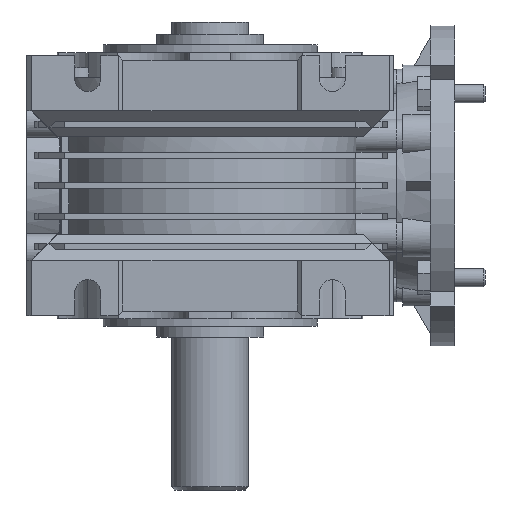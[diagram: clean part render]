
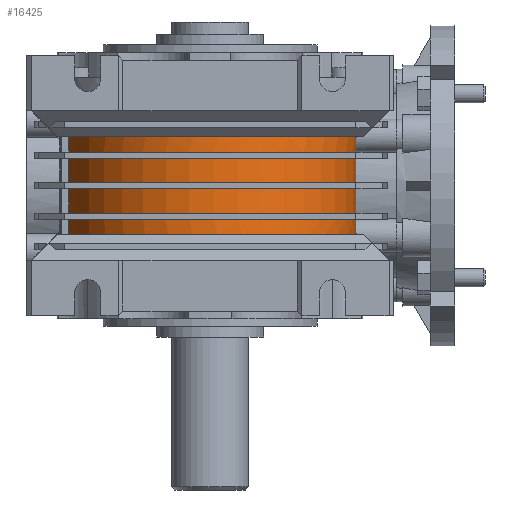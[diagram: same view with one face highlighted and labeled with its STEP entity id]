
A CAD part, front view. The second image highlights one B-rep face of the part: STEP entity #16425.
In plain terms, the highlighted cylindrical face has radius 47.7 mm (diameter 95.4 mm), a partial arc.
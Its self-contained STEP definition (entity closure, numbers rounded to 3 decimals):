
#814=B_SPLINE_CURVE_WITH_KNOTS('',3,(#24240,#24241,#24242,#24243,#24244,
#24245,#24246,#24247,#24248,#24249,#24250),.UNSPECIFIED.,.F.,.F.,(4,1,1,
1,1,1,1,1,4),(0.006,0.01,0.015,
0.019,0.023,0.027,0.032,
0.036,0.04),.UNSPECIFIED.);
#1113=LINE('',#24422,#2642);
#1141=LINE('',#24485,#2670);
#1142=LINE('',#24489,#2671);
#1143=LINE('',#24494,#2672);
#1144=LINE('',#24498,#2673);
#1145=LINE('',#24502,#2674);
#1146=LINE('',#24506,#2675);
#2642=VECTOR('',#19348,1000.);
#2670=VECTOR('',#19386,1000.);
#2671=VECTOR('',#19389,1000.);
#2672=VECTOR('',#19394,1000.);
#2673=VECTOR('',#19397,1000.);
#2674=VECTOR('',#19400,1000.);
#2675=VECTOR('',#19403,1000.);
#4303=ORIENTED_EDGE('',*,*,#9226,.F.);
#4304=ORIENTED_EDGE('',*,*,#9197,.T.);
#4305=ORIENTED_EDGE('',*,*,#9227,.T.);
#4306=ORIENTED_EDGE('',*,*,#9228,.F.);
#4307=ORIENTED_EDGE('',*,*,#9229,.F.);
#4308=ORIENTED_EDGE('',*,*,#9230,.T.);
#4309=ORIENTED_EDGE('',*,*,#9231,.F.);
#4310=ORIENTED_EDGE('',*,*,#9143,.F.);
#4311=ORIENTED_EDGE('',*,*,#9232,.F.);
#4312=ORIENTED_EDGE('',*,*,#9233,.T.);
#4313=ORIENTED_EDGE('',*,*,#9234,.T.);
#4314=ORIENTED_EDGE('',*,*,#9235,.T.);
#4315=ORIENTED_EDGE('',*,*,#9236,.F.);
#4316=ORIENTED_EDGE('',*,*,#9237,.T.);
#4317=ORIENTED_EDGE('',*,*,#9238,.T.);
#4318=ORIENTED_EDGE('',*,*,#9239,.F.);
#9143=EDGE_CURVE('',#11599,#11600,#814,.T.);
#9197=EDGE_CURVE('',#11653,#11654,#1113,.T.);
#9226=EDGE_CURVE('',#11653,#11681,#13260,.T.);
#9227=EDGE_CURVE('',#11654,#11682,#13261,.T.);
#9228=EDGE_CURVE('',#11683,#11682,#1141,.F.);
#9229=EDGE_CURVE('',#11684,#11683,#13262,.T.);
#9230=EDGE_CURVE('',#11684,#11685,#1142,.T.);
#9231=EDGE_CURVE('',#11600,#11685,#13263,.T.);
#9232=EDGE_CURVE('',#11686,#11599,#13264,.T.);
#9233=EDGE_CURVE('',#11686,#11687,#1143,.T.);
#9234=EDGE_CURVE('',#11687,#11688,#13265,.T.);
#9235=EDGE_CURVE('',#11688,#11689,#1144,.T.);
#9236=EDGE_CURVE('',#11690,#11689,#13266,.T.);
#9237=EDGE_CURVE('',#11690,#11691,#1145,.T.);
#9238=EDGE_CURVE('',#11691,#11692,#13267,.T.);
#9239=EDGE_CURVE('',#11681,#11692,#1146,.F.);
#11599=VERTEX_POINT('',#24239);
#11600=VERTEX_POINT('',#24251);
#11653=VERTEX_POINT('',#24423);
#11654=VERTEX_POINT('',#24424);
#11681=VERTEX_POINT('',#24482);
#11682=VERTEX_POINT('',#24484);
#11683=VERTEX_POINT('',#24486);
#11684=VERTEX_POINT('',#24488);
#11685=VERTEX_POINT('',#24490);
#11686=VERTEX_POINT('',#24493);
#11687=VERTEX_POINT('',#24495);
#11688=VERTEX_POINT('',#24497);
#11689=VERTEX_POINT('',#24499);
#11690=VERTEX_POINT('',#24501);
#11691=VERTEX_POINT('',#24503);
#11692=VERTEX_POINT('',#24505);
#13260=CIRCLE('',#17500,47.7);
#13261=CIRCLE('',#17501,47.7);
#13262=CIRCLE('',#17502,47.7);
#13263=CIRCLE('',#17503,47.7);
#13264=CIRCLE('',#17504,47.7);
#13265=CIRCLE('',#17505,47.7);
#13266=CIRCLE('',#17506,47.7);
#13267=CIRCLE('',#17507,47.7);
#13903=EDGE_LOOP('',(#4303,#4304,#4305,#4306,#4307,#4308,#4309,#4310,#4311,
#4312,#4313,#4314,#4315,#4316,#4317,#4318));
#15048=FACE_BOUND('',#13903,.T.);
#16194=CYLINDRICAL_SURFACE('',#17499,47.7);
#16425=ADVANCED_FACE('',(#15048),#16194,.T.);
#17499=AXIS2_PLACEMENT_3D('',#24480,#19380,#19381);
#17500=AXIS2_PLACEMENT_3D('',#24481,#19382,#19383);
#17501=AXIS2_PLACEMENT_3D('',#24483,#19384,#19385);
#17502=AXIS2_PLACEMENT_3D('',#24487,#19387,#19388);
#17503=AXIS2_PLACEMENT_3D('',#24491,#19390,#19391);
#17504=AXIS2_PLACEMENT_3D('',#24492,#19392,#19393);
#17505=AXIS2_PLACEMENT_3D('',#24496,#19395,#19396);
#17506=AXIS2_PLACEMENT_3D('',#24500,#19398,#19399);
#17507=AXIS2_PLACEMENT_3D('',#24504,#19401,#19402);
#19348=DIRECTION('',(1.,0.,0.));
#19380=DIRECTION('',(1.,0.,0.));
#19381=DIRECTION('',(0.,0.,-1.));
#19382=DIRECTION('',(-1.,0.,0.));
#19383=DIRECTION('',(0.,0.,1.));
#19384=DIRECTION('',(-1.,0.,0.));
#19385=DIRECTION('',(0.,0.,1.));
#19386=DIRECTION('',(1.,0.,0.));
#19387=DIRECTION('',(-1.,0.,0.));
#19388=DIRECTION('',(0.,0.,1.));
#19389=DIRECTION('',(1.,0.,0.));
#19390=DIRECTION('',(1.,0.,0.));
#19391=DIRECTION('',(0.,0.,-1.));
#19392=DIRECTION('',(-1.,0.,0.));
#19393=DIRECTION('',(0.,-1.,0.));
#19394=DIRECTION('',(1.,0.,0.));
#19395=DIRECTION('',(-1.,0.,0.));
#19396=DIRECTION('',(0.,0.,1.));
#19397=DIRECTION('',(1.,0.,0.));
#19398=DIRECTION('',(-1.,0.,0.));
#19399=DIRECTION('',(0.,0.,1.));
#19400=DIRECTION('',(1.,0.,0.));
#19401=DIRECTION('',(-1.,0.,0.));
#19402=DIRECTION('',(0.,0.,1.));
#19403=DIRECTION('',(1.,0.,0.));
#24239=CARTESIAN_POINT('',(-16.,-41.203,24.034));
#24240=CARTESIAN_POINT('',(-16.,-41.203,24.034));
#24241=CARTESIAN_POINT('',(-14.847,-41.617,23.323));
#24242=CARTESIAN_POINT('',(-12.374,-42.328,22.018));
#24243=CARTESIAN_POINT('',(-8.441,-43.033,20.59));
#24244=CARTESIAN_POINT('',(-4.252,-43.445,19.697));
#24245=CARTESIAN_POINT('',(-0.001,-43.576,19.401));
#24246=CARTESIAN_POINT('',(4.265,-43.444,19.698));
#24247=CARTESIAN_POINT('',(8.44,-43.033,20.59));
#24248=CARTESIAN_POINT('',(12.377,-42.328,22.019));
#24249=CARTESIAN_POINT('',(14.847,-41.617,23.323));
#24250=CARTESIAN_POINT('',(16.,-41.203,24.034));
#24251=CARTESIAN_POINT('',(16.,-41.203,24.034));
#24422=CARTESIAN_POINT('',(46.,46.166,-12.));
#24423=CARTESIAN_POINT('',(1.,46.166,-12.));
#24424=CARTESIAN_POINT('',(9.,46.166,-12.));
#24480=CARTESIAN_POINT('',(46.,0.,0.));
#24481=CARTESIAN_POINT('',(1.,0.,0.));
#24482=CARTESIAN_POINT('',(1.,-47.277,6.341));
#24483=CARTESIAN_POINT('',(9.,0.,0.));
#24484=CARTESIAN_POINT('',(9.,-47.277,6.341));
#24485=CARTESIAN_POINT('',(46.,-47.277,6.341));
#24486=CARTESIAN_POINT('',(11.,-47.277,6.341));
#24487=CARTESIAN_POINT('',(11.,0.,0.));
#24488=CARTESIAN_POINT('',(11.,46.166,-12.));
#24489=CARTESIAN_POINT('',(46.,46.166,-12.));
#24490=CARTESIAN_POINT('',(16.,46.166,-12.));
#24491=CARTESIAN_POINT('',(16.,0.,0.));
#24492=CARTESIAN_POINT('',(-16.,0.,0.));
#24493=CARTESIAN_POINT('',(-16.,46.166,-12.));
#24494=CARTESIAN_POINT('',(46.,46.166,-12.));
#24495=CARTESIAN_POINT('',(-11.,46.166,-12.));
#24496=CARTESIAN_POINT('',(-11.,0.,0.));
#24497=CARTESIAN_POINT('',(-11.,-47.277,6.341));
#24498=CARTESIAN_POINT('',(46.,-47.277,6.341));
#24499=CARTESIAN_POINT('',(-9.,-47.277,6.341));
#24500=CARTESIAN_POINT('',(-9.,0.,0.));
#24501=CARTESIAN_POINT('',(-9.,46.166,-12.));
#24502=CARTESIAN_POINT('',(46.,46.166,-12.));
#24503=CARTESIAN_POINT('',(-1.,46.166,-12.));
#24504=CARTESIAN_POINT('',(-1.,0.,0.));
#24505=CARTESIAN_POINT('',(-1.,-47.277,6.341));
#24506=CARTESIAN_POINT('',(46.,-47.277,6.341));
